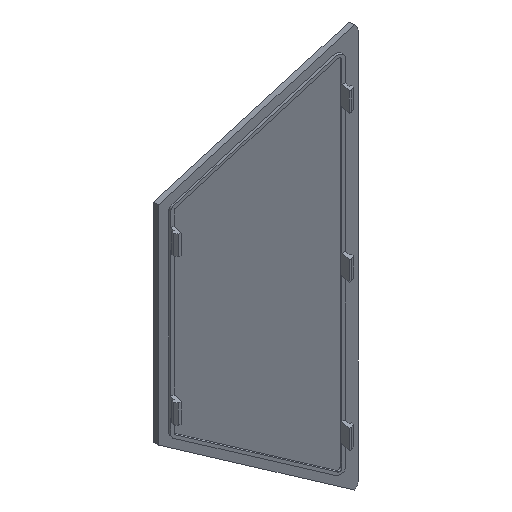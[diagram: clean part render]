
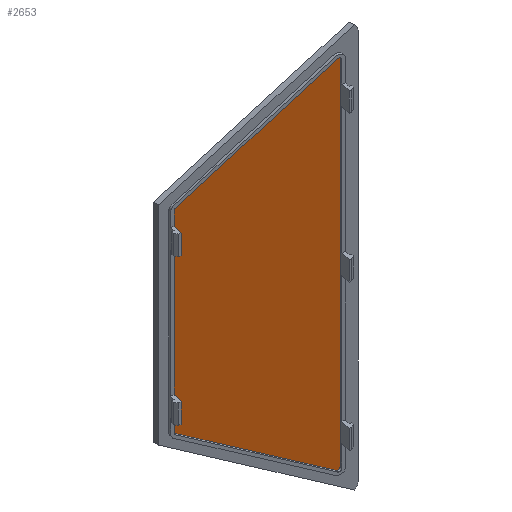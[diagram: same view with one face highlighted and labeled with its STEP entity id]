
A CAD part, isometric view. The second image highlights one B-rep face of the part: STEP entity #2653.
In plain terms, the highlighted planar face has unit normal (-0.244, -0.97, 0).
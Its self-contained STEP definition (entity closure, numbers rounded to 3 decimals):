
#34=CARTESIAN_POINT('',(23.628,63.024,-39.48));
#35=DIRECTION('',(-0.244,-0.97,0.));
#36=DIRECTION('',(-0.97,0.244,0.));
#37=AXIS2_PLACEMENT_3D('',#34,#35,#36);
#39=DIRECTION('',(0.,0.,-1.));
#40=VECTOR('',#39,78.959);
#41=CARTESIAN_POINT('',(22.658,63.268,39.48));
#42=LINE('',#41,#40);
#43=CARTESIAN_POINT('',(23.628,63.024,39.48));
#44=DIRECTION('',(-0.244,-0.97,0.));
#45=DIRECTION('',(-0.502,0.126,0.856));
#46=AXIS2_PLACEMENT_3D('',#43,#44,#45);
#48=DIRECTION('',(-0.83,0.208,-0.517));
#49=VECTOR('',#48,64.015);
#50=CARTESIAN_POINT('',(76.26,49.804,73.45));
#51=LINE('',#50,#49);
#52=CARTESIAN_POINT('',(76.762,49.678,72.594));
#53=DIRECTION('',(-0.244,-0.97,0.));
#54=DIRECTION('',(0.97,-0.244,0.));
#55=AXIS2_PLACEMENT_3D('',#52,#53,#54);
#57=DIRECTION('',(0.,0.,1.));
#58=VECTOR('',#57,145.189);
#59=CARTESIAN_POINT('',(77.732,49.435,-72.594));
#60=LINE('',#59,#58);
#61=CARTESIAN_POINT('',(76.762,49.678,-72.594));
#62=DIRECTION('',(-0.244,-0.97,0.));
#63=DIRECTION('',(-0.502,0.126,-0.856));
#64=AXIS2_PLACEMENT_3D('',#61,#62,#63);
#66=DIRECTION('',(0.83,-0.208,-0.517));
#67=VECTOR('',#66,64.015);
#68=CARTESIAN_POINT('',(23.127,63.15,-40.335));
#69=LINE('',#68,#67);
#2169=CARTESIAN_POINT('',(22.658,63.268,-39.48));
#2170=CARTESIAN_POINT('',(23.127,63.15,-40.335));
#2171=VERTEX_POINT('',#2169);
#2172=VERTEX_POINT('',#2170);
#2177=CARTESIAN_POINT('',(23.127,63.15,40.335));
#2178=CARTESIAN_POINT('',(22.658,63.268,39.48));
#2179=VERTEX_POINT('',#2177);
#2180=VERTEX_POINT('',#2178);
#2185=CARTESIAN_POINT('',(77.732,49.435,72.594));
#2186=CARTESIAN_POINT('',(76.26,49.804,73.45));
#2187=VERTEX_POINT('',#2185);
#2188=VERTEX_POINT('',#2186);
#2193=CARTESIAN_POINT('',(76.26,49.804,-73.45));
#2194=CARTESIAN_POINT('',(77.732,49.435,-72.594));
#2195=VERTEX_POINT('',#2193);
#2196=VERTEX_POINT('',#2194);
#2630=CARTESIAN_POINT('',(83.745,47.924,-118.75));
#2631=DIRECTION('',(0.244,0.97,0.));
#2632=DIRECTION('',(-0.97,0.244,0.));
#2633=AXIS2_PLACEMENT_3D('',#2630,#2631,#2632);
#2634=PLANE('',#2633);
#2636=ORIENTED_EDGE('',*,*,#2635,.F.);
#2638=ORIENTED_EDGE('',*,*,#2637,.F.);
#2640=ORIENTED_EDGE('',*,*,#2639,.F.);
#2642=ORIENTED_EDGE('',*,*,#2641,.F.);
#2644=ORIENTED_EDGE('',*,*,#2643,.F.);
#2646=ORIENTED_EDGE('',*,*,#2645,.F.);
#2648=ORIENTED_EDGE('',*,*,#2647,.F.);
#2650=ORIENTED_EDGE('',*,*,#2649,.F.);
#2651=EDGE_LOOP('',(#2636,#2638,#2640,#2642,#2644,#2646,#2648,#2650));
#2652=FACE_OUTER_BOUND('',#2651,.F.);
#2653=ADVANCED_FACE('',(#2652),#2634,.F.);
#38=CIRCLE('',#37,1.);
#47=CIRCLE('',#46,1.);
#56=CIRCLE('',#55,1.);
#65=CIRCLE('',#64,1.);
#2635=EDGE_CURVE('',#2171,#2172,#38,.T.);
#2637=EDGE_CURVE('',#2180,#2171,#42,.T.);
#2639=EDGE_CURVE('',#2179,#2180,#47,.T.);
#2641=EDGE_CURVE('',#2188,#2179,#51,.T.);
#2643=EDGE_CURVE('',#2187,#2188,#56,.T.);
#2645=EDGE_CURVE('',#2196,#2187,#60,.T.);
#2647=EDGE_CURVE('',#2195,#2196,#65,.T.);
#2649=EDGE_CURVE('',#2172,#2195,#69,.T.);
